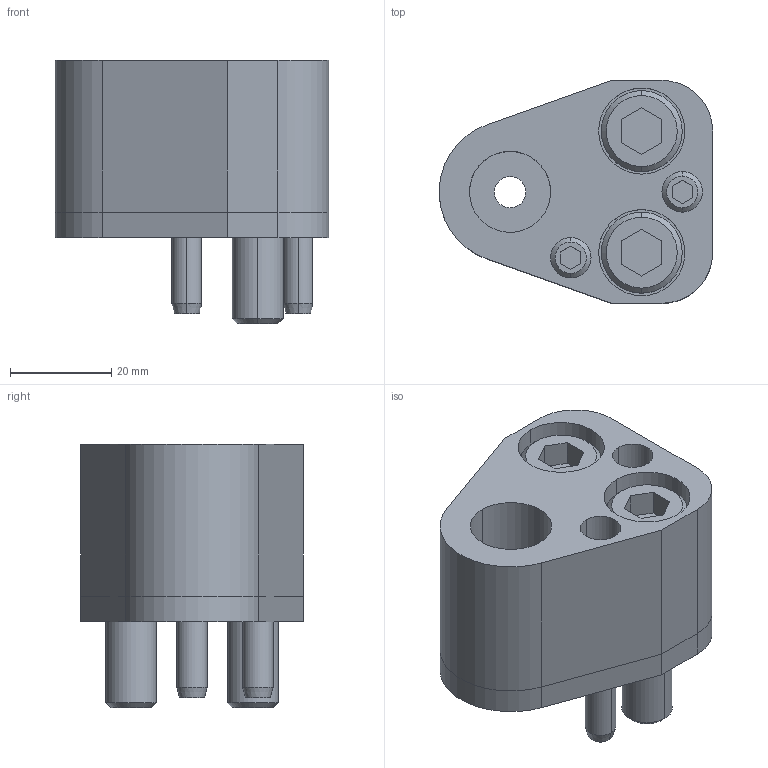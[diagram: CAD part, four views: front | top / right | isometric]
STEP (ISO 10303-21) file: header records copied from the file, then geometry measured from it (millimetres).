
FILE_DESCRIPTION(/* description */ (''),/* implementation_level */ '2;1');
FILE_NAME(/* name */ '3d_dp-ap16_02804_r00.stp',/* time_stamp */ '2011-01-10T14:15:58+09:00',/* author */ ('MISUMI'),/* organization */ (''),/* preprocessor_version */ 'ST-DEVELOPER v11',/* originating_system */ 'UGS - NX 5.0',/* authorisation */ '');
FILE_SCHEMA (('CONFIG_CONTROL_DESIGN'));
Length unit declared in the file: millimetre
Products named in the file (1): 3d_dp-ap16_02804_r00
Bounding box: 53.95 x 44 x 52 mm (x, y, z)
Volume: 58303.9 mm3; surface area: 24372.4 mm2
Topology: 8 solids, 8 shells, 155 faces, 346 edges, 222 vertices
Faces by surface type: plane 67, cylinder 62, cone 26
Entity records: 4480 total; most frequent: DIRECTION 804, CARTESIAN_POINT 778, ORIENTED_EDGE 692, EDGE_CURVE 346, AXIS2_PLACEMENT_3D 306, VERTEX_POINT 222, LINE 192, VECTOR 192
